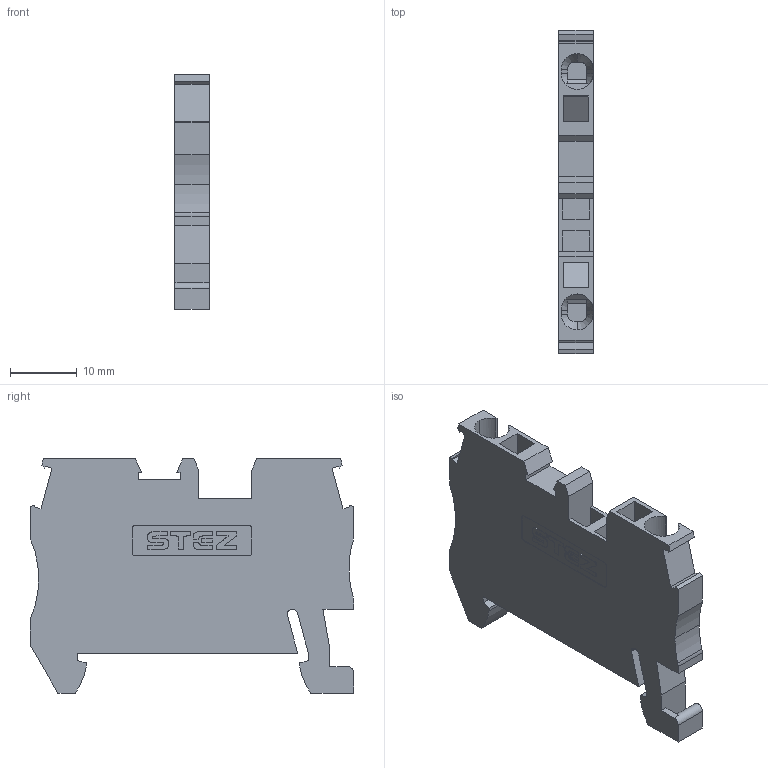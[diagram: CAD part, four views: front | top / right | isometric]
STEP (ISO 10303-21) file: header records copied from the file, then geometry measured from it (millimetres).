
FILE_DESCRIPTION(('TFLEX Exchange Step'),'2;1');
FILE_NAME('10000017_КНЗ 2.5-2-О.stp', '2023-10-02T10:05:10+03:00',('apanin'),('Unknown organisation'),'TFLEX Exchange 2023.0','T-FLEX CAD','Unknown authorisation');
FILE_SCHEMA( ('AUTOMOTIVE_DESIGN { 1 0 10303 214 1 1 1 1 }') );
Length unit declared in the file: millimetre
Products named in the file (1): Тело_1 - 1:1
Bounding box: 5.15 x 48.6 x 35.25 mm (x, y, z)
Volume: 5932.2 mm3; surface area: 4727.7 mm2
Topology: 1 solids, 1 shells, 358 faces, 1033 edges, 686 vertices
Faces by surface type: cylinder 190, plane 160, cone 8
Entity records: 12314 total; most frequent: CARTESIAN_POINT 2739, ORIENTED_EDGE 2066, DIRECTION 2003, EDGE_CURVE 1033, AXIS2_PLACEMENT_3D 736, VERTEX_POINT 686, VECTOR 531, LINE 531
